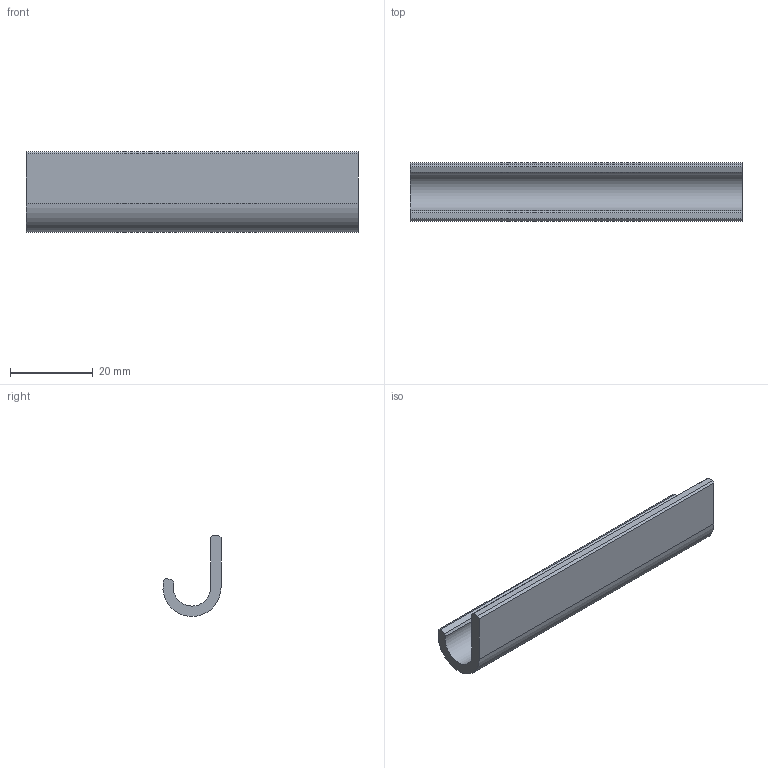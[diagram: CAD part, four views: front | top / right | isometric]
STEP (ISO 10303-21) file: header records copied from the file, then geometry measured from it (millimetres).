
FILE_DESCRIPTION(/* description */ ('STEP AP242 Edition 2','CAx-IF Rec.Pracs.---Representation and Presentation of Product Manufacturing Information (PMI)---4.0---2014-10-13','CAx-IF Rec.Pracs.---3D Tessellated Geometry---0.4---2014-09-14','2;1','CAx-IF Rec.Pracs.---User Defined Attributes---1.5---2016-08-15'),/* implementation_level */ '2;1');
FILE_NAME(/* name */ 'Assembly 1 - Part 10',/* time_stamp */ '2026-10-18T18:48:31Z',/* author */ (''),/* organization */ (''),/* preprocessor_version */ 'ST-DEVELOPER v20',/* originating_system */ 'ONSHAPE BY PTC INC, 1.222',/* authorisation */ ' ');
FILE_SCHEMA (('AP242_MANAGED_MODEL_BASED_3D_ENGINEERING_MIM_LF { 1 0 10303 442 3 1 4 }'));
Length unit declared in the file: metre
Products named in the file (1): Part 10
Bounding box: 80 x 13.99 x 19.5 mm (x, y, z)
Volume: 6474.3 mm3; surface area: 5680 mm2
Topology: 1 solids, 1 shells, 12 faces, 30 edges, 20 vertices
Faces by surface type: plane 10, cylinder 2
Entity records: 380 total; most frequent: CARTESIAN_POINT 63, ORIENTED_EDGE 60, DIRECTION 60, EDGE_CURVE 30, LINE 26, VECTOR 26, VERTEX_POINT 20, AXIS2_PLACEMENT_3D 17
